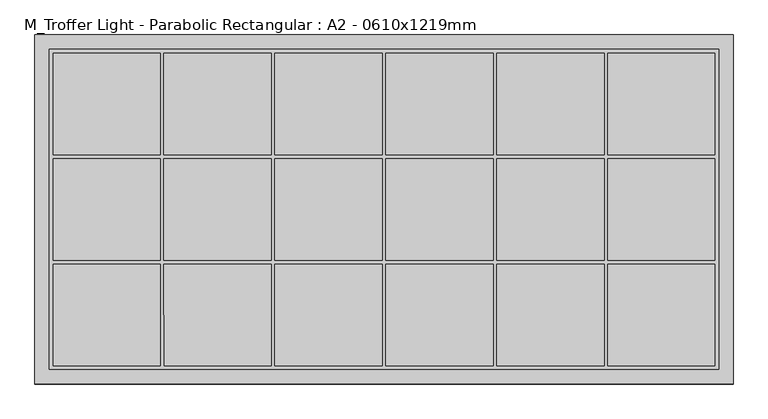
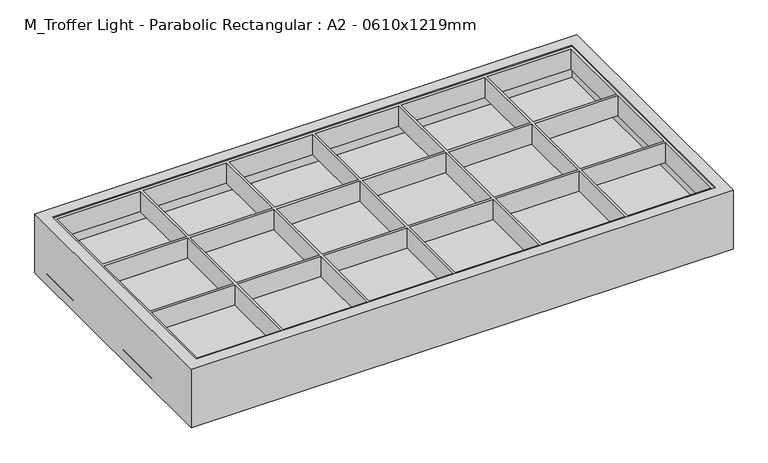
"""IFC4 building model written with IfcOpenShell, lengths in millimetres: light fixture geometry, M_Troffer Light - Parabolic Rectangular : A2 - 0610x1219mm."""

from ifc_helpers import new_model, si_unit, frame, origin, place, context, project, spatial, polyline, outline, extrude, faceted_brep, source, transform, mapped, element, save


def m_troffer_light_parabolic_rectangular_a2_0610x1219mm_aa7a7dc7(model_context):
    return source(origin(), model_context, "Body", "SolidModel", [
        extrude(outline(polyline([(584.2, -25.4), (584.2, -584.2), (-584.2, -584.2), (-584.2, -25.4), (584.2, -25.4)]), holes=[polyline([(-577.85, -215.9), (-577.85, -393.7), (-390.525, -393.7), (-390.525, -215.9), (-577.85, -215.9)]), polyline([(-384.175, -215.9), (-384.175, -393.7), (-196.85, -393.7), (-196.85, -215.9), (-384.175, -215.9)]), polyline([(-190.5, -215.9), (-190.5, -393.7), (-3.175, -393.7), (-3.175, -215.9), (-190.5, -215.9)]), polyline([(3.175, -215.9), (3.175, -393.7), (190.5, -393.7), (190.5, -215.9), (3.175, -215.9)]), polyline([(196.85, -215.9), (196.85, -393.7), (384.175, -393.7), (384.175, -215.9), (196.85, -215.9)]), polyline([(390.525, -215.9), (390.525, -393.7), (577.85, -393.7), (577.85, -215.9), (390.525, -215.9)]), polyline([(390.525, -31.75), (390.525, -209.55), (577.85, -209.55), (577.85, -31.75), (390.525, -31.75)]), polyline([(196.85, -31.75), (196.85, -209.55), (384.175, -209.55), (384.175, -31.75), (196.85, -31.75)]), polyline([(3.175, -31.75), (3.175, -209.55), (190.5, -209.55), (190.5, -31.75), (3.175, -31.75)]), polyline([(-190.5, -31.75), (-190.5, -209.55), (-3.175, -209.55), (-3.175, -31.75), (-190.5, -31.75)]), polyline([(-384.175, -31.75), (-384.175, -209.55), (-196.85, -209.55), (-196.85, -31.75), (-384.175, -31.75)]), polyline([(-577.85, -31.75), (-577.85, -209.55), (-390.525, -209.55), (-390.525, -31.75), (-577.85, -31.75)]), polyline([(384.175, -577.85), (384.175, -400.05), (196.85, -400.05), (196.85, -577.85), (384.175, -577.85)]), polyline([(3.175, -400.05), (3.175, -577.85), (190.5, -577.85), (190.5, -400.05), (3.175, -400.05)]), polyline([(-190.5, -400.05), (-190.5, -577.85), (-3.175, -577.85), (-3.175, -400.05), (-190.5, -400.05)]), polyline([(-384.175, -400.05), (-384.175, -577.85), (-196.85, -577.85), (-196.85, -400.05), (-384.175, -400.05)]), polyline([(-577.85, -400.05), (-577.85, -577.85), (-390.525, -577.85), (-390.525, -400.05), (-577.85, -400.05)]), polyline([(390.525, -400.05), (390.525, -577.85), (577.85, -577.85), (577.85, -400.05), (390.525, -400.05)])]), frame((0.0, 0.0, -50.8), z_axis=(0.0, 0.0, 1.0), x_axis=(1.0, 0.0, 0.0)), (0.0, 0.0, 1.0), 47.625),
        faceted_brep([(609.6, 0.0, 0.0), (-609.6, 0.0, 0.0), (-609.6, -609.6, 0.0), (609.6, -609.6, 0.0), (584.2, -25.4, 0.0), (584.2, -584.2, 0.0), (-584.2, -584.2, 0.0), (-584.2, -25.4, 0.0), (-609.6, -609.6, -139.7), (-609.6, 0.0, -139.7), (609.6, 0.0, -139.7), (609.6, -609.6, -139.7), (-584.2, -584.2, -114.3), (-584.2, -25.4, -114.3), (584.2, -25.4, -114.3), (584.2, -584.2, -114.3)], [[[0, 1, 2, 3], [4, 5, 6, 7]], [[8, 9, 10, 11]], [[1, 0, 10, 9]], [[9, 8, 2, 1]], [[3, 2, 8, 11]], [[7, 6, 12, 13]], [[5, 4, 14, 15]], [[11, 10, 0, 3]], [[4, 7, 13, 14]], [[14, 13, 12, 15]], [[6, 5, 15, 12]]]),
        extrude(outline(polyline([(584.2, -25.4), (584.2, -584.2), (-584.2, -584.2), (-584.2, -25.4), (584.2, -25.4)])), frame((0.0, 0.0, -82.55), z_axis=(0.0, 0.0, 1.0), x_axis=(1.0, 0.0, 0.0)), (0.0, 0.0, 1.0), 6.35),
        extrude(outline(polyline([(609.6, 0.0), (609.6, -609.6), (-609.6, -609.6), (-609.6, 0.0), (609.6, 0.0)])), frame((0.0, 0.0, -139.7), z_axis=(0.0, 0.0, 1.0), x_axis=(1.0, 0.0, 0.0)), (0.0, 0.0, 1.0), 25.4),
    ])


if __name__ == "__main__":
    model = new_model("IFC4")
    model_context = context("Model", 3, world=origin())
    ifc_project = project(units=[si_unit("LENGTHUNIT", "METRE", prefix="MILLI")], contexts=[model_context])
    site = spatial("IfcSite", under=ifc_project)
    building = spatial("IfcBuilding", under=site)
    placement = place(None, origin())
    m_troffer_light_parabolic_rectangular_a2_0610x1219mm_shape = m_troffer_light_parabolic_rectangular_a2_0610x1219mm_aa7a7dc7(model_context)
    element("IfcLightFixture", 1, ObjectType="M_Troffer Light - Parabolic Rectangular : A2 - 0610x1219mm", at=placement, inside=building, context=model_context, shape_type="MappedRepresentation", body=[
        mapped(m_troffer_light_parabolic_rectangular_a2_0610x1219mm_shape, transform((0.0, 0.0, 0.0), x_axis=(1.0, 0.0, 0.0), y_axis=(0.0, 1.0, 0.0), z_axis=(0.0, 0.0, 1.0))),
    ])
    save(model, "model.ifc")
